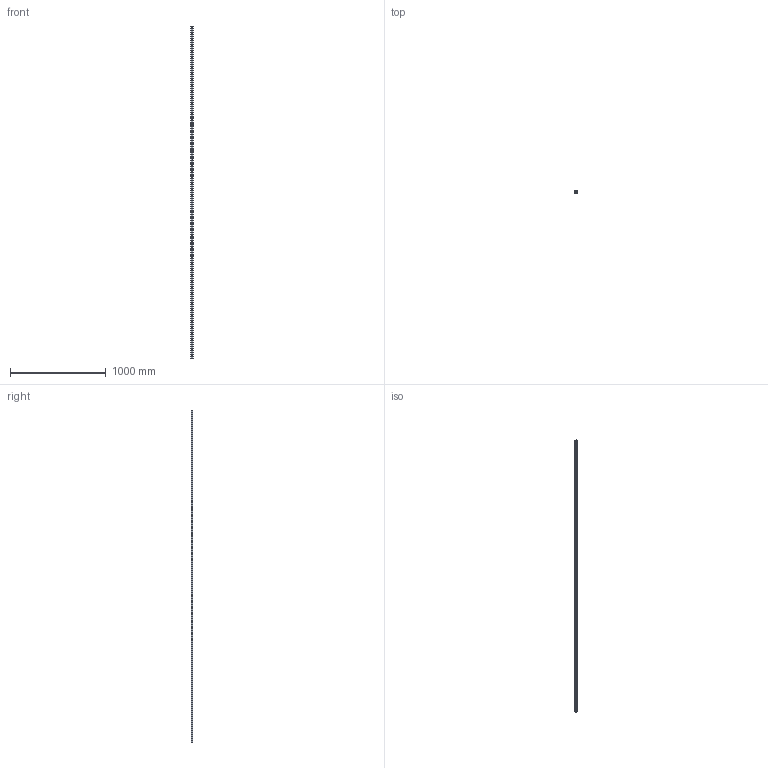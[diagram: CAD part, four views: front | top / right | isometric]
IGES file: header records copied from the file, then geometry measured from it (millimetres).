
Start section: SolidWorks IGES file using analytic representation for surfaces
Global section: file name: C:\Users\IanO\Desktop\L1016_v2\L1016.BL25_v2\L1016.BL25_v2_20160611_IGES\L1016.BL25-3460.igs; native system: SolidWorks 2017; preprocessor: SolidWorks 2017; author: IanO; date: 190612.131531; units: millimetre
Bounding box: 23 x 19.2 x 3460 mm (x, y, z)
Surface area: 327216.5 mm2 (no closed solid volume)
Topology: 0 solids, 0 shells, 316 faces, 8520 edges, 8520 vertices
Faces by surface type: revolution 236, bspline 80
